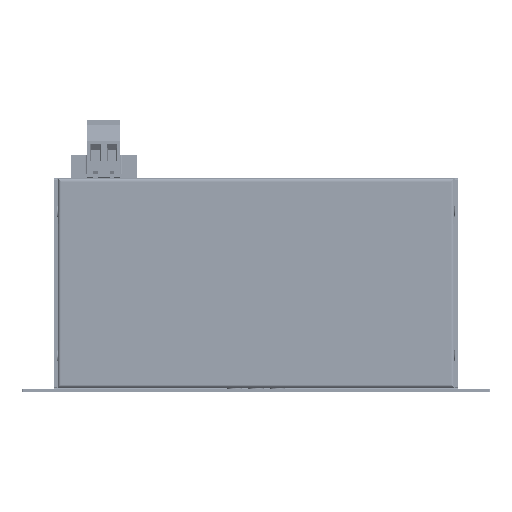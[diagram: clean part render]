
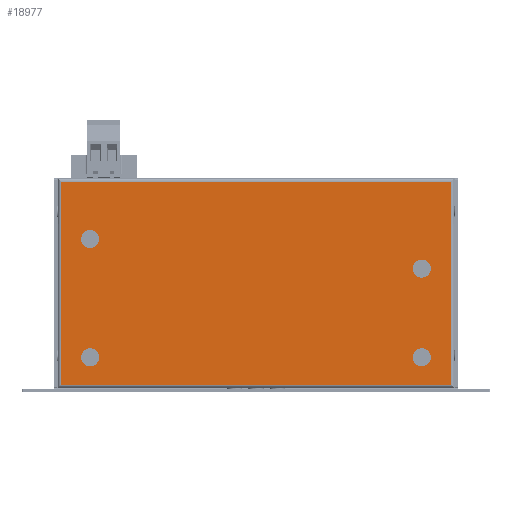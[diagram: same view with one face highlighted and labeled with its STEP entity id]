
A CAD part, front view. The second image highlights one B-rep face of the part: STEP entity #18977.
In plain terms, the highlighted planar face has unit normal (0, -1, 0) as drawn and (0, 0, -1) by its records, which use the part's own axes.
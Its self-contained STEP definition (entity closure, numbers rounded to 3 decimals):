
#65 = EDGE_LOOP ( 'NONE', ( #96227, #9493, #148451, #80747 ) ) ;
#2797 = DIRECTION ( 'NONE',  ( -1., 0., 0. ) ) ;
#5574 = VECTOR ( 'NONE', #145373, 1000. ) ;
#6508 = CIRCLE ( 'NONE', #93467, 2.75 ) ;
#6830 = CARTESIAN_POINT ( 'NONE',  ( -50.49, 4.41, -1. ) ) ;
#7465 = DIRECTION ( 'NONE',  ( -1., 0., 0. ) ) ;
#9493 = ORIENTED_EDGE ( 'NONE', *, *, #124902, .T. ) ;
#11109 = CARTESIAN_POINT ( 'NONE',  ( 50.5, -22.59, -1. ) ) ;
#13788 = EDGE_CURVE ( 'NONE', #179692, #40418, #193240, .T. ) ;
#14935 = CARTESIAN_POINT ( 'NONE',  ( -59.39, -30.89, -1. ) ) ;
#15843 = AXIS2_PLACEMENT_3D ( 'NONE', #11109, #159051, #26342 ) ;
#18977 = ADVANCED_FACE ( 'NONE', ( #209091, #97888, #167668, #64341, #141715 ), #107379, .F. ) ;
#21667 = CARTESIAN_POINT ( 'NONE',  ( -59.39, 30.89, -1. ) ) ;
#26342 = DIRECTION ( 'NONE',  ( -1., 0., 0. ) ) ;
#28708 = LINE ( 'NONE', #109122, #199182 ) ;
#28955 = CARTESIAN_POINT ( 'NONE',  ( 47.75, -22.59, -1. ) ) ;
#29667 = VERTEX_POINT ( 'NONE', #196757 ) ;
#31006 = ORIENTED_EDGE ( 'NONE', *, *, #197204, .F. ) ;
#31725 = CARTESIAN_POINT ( 'NONE',  ( 53.25, -22.59, -1. ) ) ;
#33040 = CARTESIAN_POINT ( 'NONE',  ( 50.5, 13.41, -1. ) ) ;
#35739 = VERTEX_POINT ( 'NONE', #28955 ) ;
#40418 = VERTEX_POINT ( 'NONE', #152494 ) ;
#40791 = DIRECTION ( 'NONE',  ( -1., 0., 0. ) ) ;
#43203 = AXIS2_PLACEMENT_3D ( 'NONE', #206317, #170971, #104539 ) ;
#46112 = VERTEX_POINT ( 'NONE', #21667 ) ;
#47226 = VERTEX_POINT ( 'NONE', #14935 ) ;
#51535 = VERTEX_POINT ( 'NONE', #153244 ) ;
#53501 = CARTESIAN_POINT ( 'NONE',  ( -47.74, 4.41, -1. ) ) ;
#55684 = AXIS2_PLACEMENT_3D ( 'NONE', #33040, #212792, #129720 ) ;
#58861 = LINE ( 'NONE', #87773, #128556 ) ;
#63264 = CIRCLE ( 'NONE', #120188, 2.75 ) ;
#64341 = FACE_BOUND ( 'NONE', #83641, .T. ) ;
#66142 = CARTESIAN_POINT ( 'NONE',  ( -50.49, 4.41, -1. ) ) ;
#66483 = ORIENTED_EDGE ( 'NONE', *, *, #69826, .F. ) ;
#69826 = EDGE_CURVE ( 'NONE', #29667, #128121, #63264, .T. ) ;
#73886 = DIRECTION ( 'NONE',  ( 0., 1., 0. ) ) ;
#74301 = DIRECTION ( 'NONE',  ( 0., -1., 0. ) ) ;
#78031 = AXIS2_PLACEMENT_3D ( 'NONE', #6830, #107829, #40791 ) ;
#80747 = ORIENTED_EDGE ( 'NONE', *, *, #105152, .T. ) ;
#83641 = EDGE_LOOP ( 'NONE', ( #178554, #66483 ) ) ;
#86396 = CIRCLE ( 'NONE', #43203, 2.75 ) ;
#87773 = CARTESIAN_POINT ( 'NONE',  ( 60.4, 30.89, -1. ) ) ;
#92206 = AXIS2_PLACEMENT_3D ( 'NONE', #124637, #139108, #188988 ) ;
#93467 = AXIS2_PLACEMENT_3D ( 'NONE', #139485, #138034, #7465 ) ;
#94283 = ORIENTED_EDGE ( 'NONE', *, *, #206271, .F. ) ;
#96227 = ORIENTED_EDGE ( 'NONE', *, *, #172867, .T. ) ;
#97888 = FACE_BOUND ( 'NONE', #189645, .T. ) ;
#99757 = VERTEX_POINT ( 'NONE', #31725 ) ;
#103744 = LINE ( 'NONE', #162061, #5574 ) ;
#104539 = DIRECTION ( 'NONE',  ( -1., 0., 0. ) ) ;
#105152 = EDGE_CURVE ( 'NONE', #40418, #47226, #103744, .T. ) ;
#105635 = DIRECTION ( 'NONE',  ( -1., 0., 0. ) ) ;
#107379 = PLANE ( 'NONE',  #92206 ) ;
#107829 = DIRECTION ( 'NONE',  ( 0., 0., -1. ) ) ;
#109122 = CARTESIAN_POINT ( 'NONE',  ( -59.39, 31.9, -1. ) ) ;
#111090 = CIRCLE ( 'NONE', #55684, 2.75 ) ;
#112994 = ORIENTED_EDGE ( 'NONE', *, *, #185579, .F. ) ;
#113592 = CARTESIAN_POINT ( 'NONE',  ( -53.24, -22.59, -1. ) ) ;
#118268 = CARTESIAN_POINT ( 'NONE',  ( 59.39, -31.9, -1. ) ) ;
#120188 = AXIS2_PLACEMENT_3D ( 'NONE', #134067, #168066, #2797 ) ;
#120312 = EDGE_CURVE ( 'NONE', #156563, #155594, #152801, .T. ) ;
#120766 = DIRECTION ( 'NONE',  ( 0., 0., -1. ) ) ;
#122472 = CIRCLE ( 'NONE', #159739, 2.75 ) ;
#123008 = EDGE_CURVE ( 'NONE', #155594, #156563, #194428, .T. ) ;
#123178 = CARTESIAN_POINT ( 'NONE',  ( 53.25, 13.41, -1. ) ) ;
#124637 = CARTESIAN_POINT ( 'NONE',  ( 0., 0., -1. ) ) ;
#124902 = EDGE_CURVE ( 'NONE', #46112, #179692, #58861, .T. ) ;
#128121 = VERTEX_POINT ( 'NONE', #113592 ) ;
#128556 = VECTOR ( 'NONE', #170687, 1000. ) ;
#129720 = DIRECTION ( 'NONE',  ( -1., 0., 0. ) ) ;
#134067 = CARTESIAN_POINT ( 'NONE',  ( -50.49, -22.59, -1. ) ) ;
#138034 = DIRECTION ( 'NONE',  ( 0., 0., -1. ) ) ;
#139108 = DIRECTION ( 'NONE',  ( 0., 0., 1. ) ) ;
#139485 = CARTESIAN_POINT ( 'NONE',  ( 50.5, 13.41, -1. ) ) ;
#141715 = FACE_BOUND ( 'NONE', #180913, .T. ) ;
#145373 = DIRECTION ( 'NONE',  ( -1., 0., 0. ) ) ;
#148451 = ORIENTED_EDGE ( 'NONE', *, *, #13788, .T. ) ;
#150081 = CIRCLE ( 'NONE', #15843, 2.75 ) ;
#151921 = VECTOR ( 'NONE', #74301, 1000. ) ;
#152494 = CARTESIAN_POINT ( 'NONE',  ( 59.39, -30.89, -1. ) ) ;
#152543 = DIRECTION ( 'NONE',  ( -1., 0., 0. ) ) ;
#152801 = CIRCLE ( 'NONE', #78031, 2.75 ) ;
#153244 = CARTESIAN_POINT ( 'NONE',  ( 47.75, 13.41, -1. ) ) ;
#155080 = EDGE_CURVE ( 'NONE', #128121, #29667, #86396, .T. ) ;
#155594 = VERTEX_POINT ( 'NONE', #158065 ) ;
#156563 = VERTEX_POINT ( 'NONE', #53501 ) ;
#158065 = CARTESIAN_POINT ( 'NONE',  ( -53.24, 4.41, -1. ) ) ;
#159051 = DIRECTION ( 'NONE',  ( 0., 0., -1. ) ) ;
#159739 = AXIS2_PLACEMENT_3D ( 'NONE', #187229, #120766, #105635 ) ;
#162061 = CARTESIAN_POINT ( 'NONE',  ( 0., -30.89, -1. ) ) ;
#165743 = VERTEX_POINT ( 'NONE', #123178 ) ;
#167668 = FACE_BOUND ( 'NONE', #207305, .T. ) ;
#168066 = DIRECTION ( 'NONE',  ( 0., 0., -1. ) ) ;
#170687 = DIRECTION ( 'NONE',  ( 1., 0., 0. ) ) ;
#170971 = DIRECTION ( 'NONE',  ( 0., 0., -1. ) ) ;
#172867 = EDGE_CURVE ( 'NONE', #47226, #46112, #28708, .T. ) ;
#174945 = ORIENTED_EDGE ( 'NONE', *, *, #123008, .F. ) ;
#177841 = CARTESIAN_POINT ( 'NONE',  ( 59.39, 30.89, -1. ) ) ;
#178554 = ORIENTED_EDGE ( 'NONE', *, *, #155080, .F. ) ;
#179692 = VERTEX_POINT ( 'NONE', #177841 ) ;
#180913 = EDGE_LOOP ( 'NONE', ( #174945, #194338 ) ) ;
#182020 = AXIS2_PLACEMENT_3D ( 'NONE', #66142, #198184, #152543 ) ;
#185520 = EDGE_CURVE ( 'NONE', #165743, #51535, #6508, .T. ) ;
#185579 = EDGE_CURVE ( 'NONE', #35739, #99757, #122472, .T. ) ;
#187229 = CARTESIAN_POINT ( 'NONE',  ( 50.5, -22.59, -1. ) ) ;
#188988 = DIRECTION ( 'NONE',  ( 1., 0., 0. ) ) ;
#189645 = EDGE_LOOP ( 'NONE', ( #112994, #94283 ) ) ;
#193240 = LINE ( 'NONE', #118268, #151921 ) ;
#194338 = ORIENTED_EDGE ( 'NONE', *, *, #120312, .F. ) ;
#194428 = CIRCLE ( 'NONE', #182020, 2.75 ) ;
#196757 = CARTESIAN_POINT ( 'NONE',  ( -47.74, -22.59, -1. ) ) ;
#197204 = EDGE_CURVE ( 'NONE', #51535, #165743, #111090, .T. ) ;
#197979 = ORIENTED_EDGE ( 'NONE', *, *, #185520, .F. ) ;
#198184 = DIRECTION ( 'NONE',  ( 0., 0., -1. ) ) ;
#199182 = VECTOR ( 'NONE', #73886, 1000. ) ;
#206271 = EDGE_CURVE ( 'NONE', #99757, #35739, #150081, .T. ) ;
#206317 = CARTESIAN_POINT ( 'NONE',  ( -50.49, -22.59, -1. ) ) ;
#207305 = EDGE_LOOP ( 'NONE', ( #31006, #197979 ) ) ;
#209091 = FACE_OUTER_BOUND ( 'NONE', #65, .T. ) ;
#212792 = DIRECTION ( 'NONE',  ( 0., 0., -1. ) ) ;
